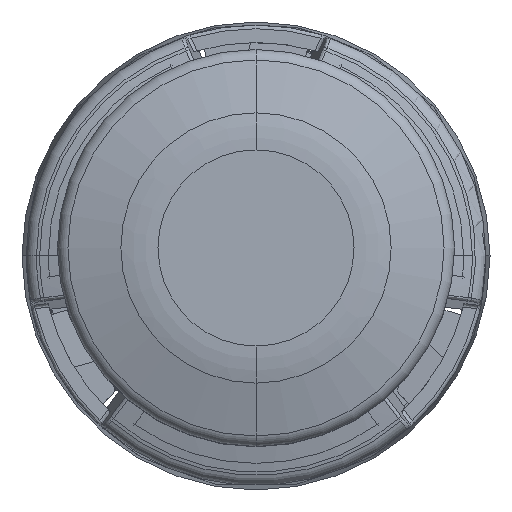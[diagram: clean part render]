
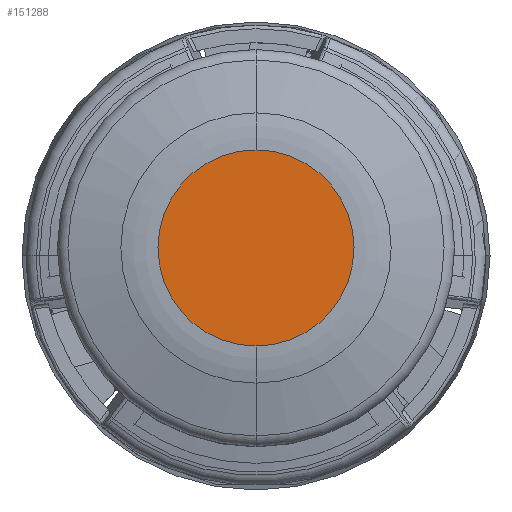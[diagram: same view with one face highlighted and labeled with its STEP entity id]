
A CAD part, top view. The second image highlights one B-rep face of the part: STEP entity #151288.
In plain terms, the highlighted planar face has unit normal (0, 0, 1).
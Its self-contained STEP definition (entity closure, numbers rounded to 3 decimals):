
#10270 = ORIENTED_EDGE ( 'NONE', *, *, #50751, .T. ) ;
#10444 = CARTESIAN_POINT ( 'NONE',  ( 0., 0., 650. ) ) ;
#11330 = EDGE_LOOP ( 'NONE', ( #10270, #110909 ) ) ;
#12437 = CARTESIAN_POINT ( 'NONE',  ( 0., 0., 650. ) ) ;
#30169 = DIRECTION ( 'NONE',  ( -1., 0., 0. ) ) ;
#49136 = VERTEX_POINT ( 'NONE', #71236 ) ;
#50751 = EDGE_CURVE ( 'NONE', #49136, #125121, #90697, .T. ) ;
#71236 = CARTESIAN_POINT ( 'NONE',  ( 0., 13.822, 650. ) ) ;
#72965 = AXIS2_PLACEMENT_3D ( 'NONE', #10444, #176781, #140255 ) ;
#89200 = CARTESIAN_POINT ( 'NONE',  ( 0., 0., 650. ) ) ;
#90697 = CIRCLE ( 'NONE', #72965, 13.822 ) ;
#91364 = DIRECTION ( 'NONE',  ( 0., 1., 0. ) ) ;
#101069 = PLANE ( 'NONE',  #163886 ) ;
#105112 = CARTESIAN_POINT ( 'NONE',  ( 0., -13.822, 650. ) ) ;
#110909 = ORIENTED_EDGE ( 'NONE', *, *, #209994, .T. ) ;
#113695 = AXIS2_PLACEMENT_3D ( 'NONE', #89200, #122446, #91364 ) ;
#117691 = DIRECTION ( 'NONE',  ( 0., 0., -1. ) ) ;
#122446 = DIRECTION ( 'NONE',  ( 0., 0., 1. ) ) ;
#125121 = VERTEX_POINT ( 'NONE', #105112 ) ;
#132137 = FACE_OUTER_BOUND ( 'NONE', #11330, .T. ) ;
#140255 = DIRECTION ( 'NONE',  ( 0., 1., 0. ) ) ;
#151288 = ADVANCED_FACE ( 'NONE', ( #132137 ), #101069, .F. ) ;
#163886 = AXIS2_PLACEMENT_3D ( 'NONE', #12437, #117691, #30169 ) ;
#176781 = DIRECTION ( 'NONE',  ( 0., 0., 1. ) ) ;
#209994 = EDGE_CURVE ( 'NONE', #125121, #49136, #212764, .T. ) ;
#212764 = CIRCLE ( 'NONE', #113695, 13.822 ) ;
